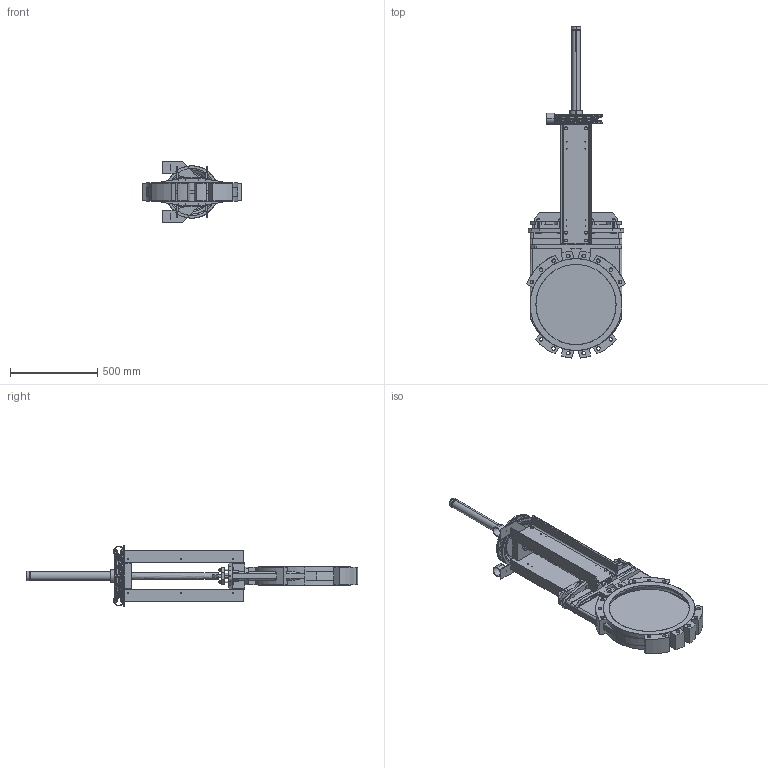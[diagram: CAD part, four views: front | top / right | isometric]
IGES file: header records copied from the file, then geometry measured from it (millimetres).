
Start section: SolidWorks IGES file using analytic representation for surfaces
Global section: file name: D:\part\3D Projects\VG-CHAIN HANDWHEEL(DN50-600)\VG C DN450\VG C DN450.IGS; native system: SolidWorks 2009; preprocessor: SolidWorks 2009; author: zhixin.zheng; date: 100129.085406; units: millimetre
Bounding box: 567 x 1904.55 x 350 mm (x, y, z)
Surface area: 3077799.1 mm2 (no closed solid volume)
Topology: 0 solids, 0 shells, 1398 faces, 16165 edges, 16165 vertices
Faces by surface type: bspline 865, revolution 533
